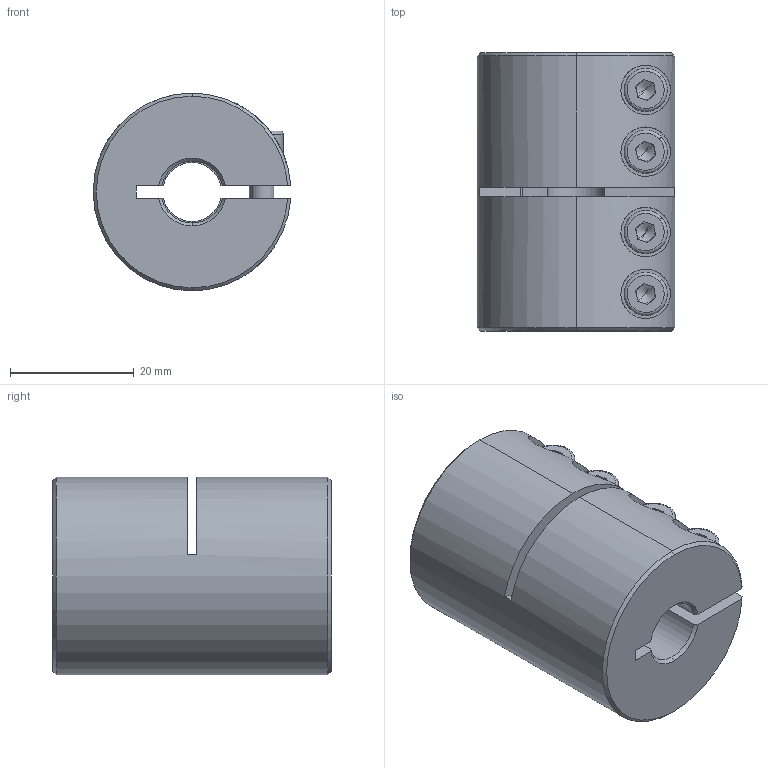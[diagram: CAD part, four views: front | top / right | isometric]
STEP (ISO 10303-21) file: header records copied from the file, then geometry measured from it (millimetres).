
FILE_DESCRIPTION (( 'STEP AP214' ), '1' );
FILE_NAME ('LL-B-D32L45-9.525-10½¨Ä£.STEP', '2022-07-21T07:03:38', ( '' ), ( '' ), 'SwSTEP 2.0', 'SolidWorks 2022', '' );
FILE_SCHEMA (( 'AUTOMOTIVE_DESIGN' ));
Length unit declared in the file: millimetre
Products named in the file (1): LL-B-D32L45-9.525-10膘耀
Bounding box: 31.97 x 45 x 32 mm (x, y, z)
Volume: 30221 mm3; surface area: 10755.3 mm2
Topology: 1 solids, 1 shells, 193 faces, 492 edges, 309 vertices
Faces by surface type: plane 88, cylinder 77, cone 20, torus 8
Entity records: 6357 total; most frequent: CARTESIAN_POINT 1583, DIRECTION 1037, ORIENTED_EDGE 968, EDGE_CURVE 484, AXIS2_PLACEMENT_3D 403, VERTEX_POINT 309, VECTOR 231, LINE 231
